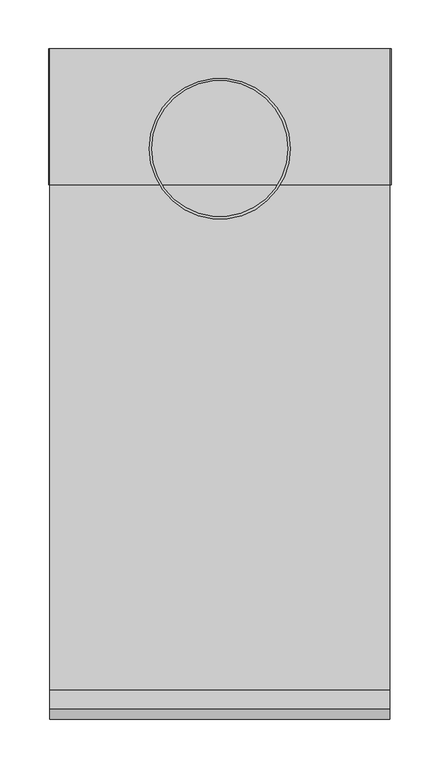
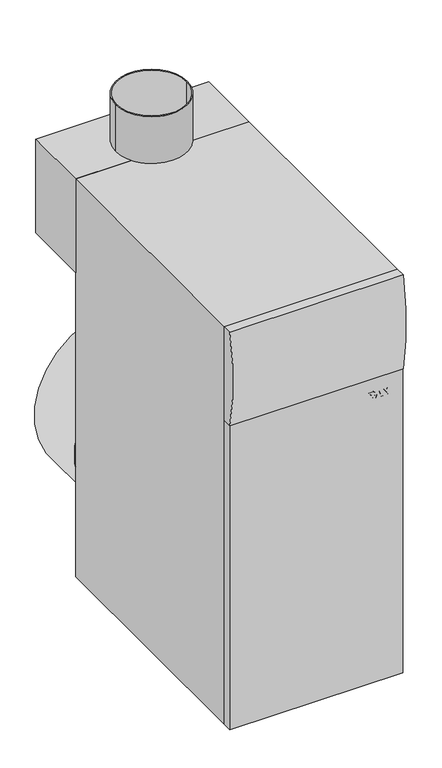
"""IFC4 building model written with IfcOpenShell, lengths in millimetres: proxy geometry, BAXI_ГазовыйКотел_Slim-i : BAXI_Газовый котел_Slim_1.300_i."""

import ifcopenshell
import ifcopenshell.guid

model = None  # the IFC model being written
_history = None  # IfcOwnerHistory: only IFC2X3 demands one
_inside = {}  # id of a spatial element -> (the spatial element, [elements in it])
_under = {}  # id of a project, library or spatial element -> (it, [spatial elements below it])
_declared = {}  # id of a project -> (the project, [libraries it declares])
_typed = {}  # id of a type object -> (the type object, [elements of that type])
_made_of = {}  # id of a material, layer set ... -> (it, [elements and type objects made of it])


def new_model(schema):
    """Start an empty IFC model of exactly this schema.

    Asked for "IFC4X3", IfcOpenShell would pick the latest addendum, in which some entities
    have other attributes; the version numbers below select the first issue.
    IFC2X3 requires an IfcOwnerHistory on every rooted entity: one is made here for all.
    """
    global model, _history
    if schema == "IFC4X3":
        model = ifcopenshell.file(schema_version=(4, 3, 0, 0))
    else:
        model = ifcopenshell.file(schema=schema)
    _inside.clear()
    _under.clear()
    _declared.clear()
    _typed.clear()
    _made_of.clear()
    _history = None
    if model.schema == "IFC2X3":
        org = make("IfcOrganization", Name="unknown")
        user = make(
            "IfcPersonAndOrganization",
            ThePerson=make("IfcPerson", FamilyName="unknown"),
            TheOrganization=org,
        )
        app = make(
            "IfcApplication",
            ApplicationDeveloper=org,
            Version="unknown",
            ApplicationFullName="unknown",
            ApplicationIdentifier="unknown",
        )
        _history = make(
            "IfcOwnerHistory",
            OwningUser=user,
            OwningApplication=app,
            ChangeAction="ADDED",
            CreationDate=0,
        )
    return model


def make(cls, **values):
    """One entity of the class cls with the attributes given. An attribute that is None is left unset."""
    return model.create_entity(
        cls, **{name: value for name, value in values.items() if value is not None}
    )


def rooted(cls, **values):
    """An entity with a GlobalId (a new one), such as an element, a storey or a relation."""
    return make(cls, GlobalId=ifcopenshell.guid.new(), OwnerHistory=_history, **values)


def si_unit(unit_type, name, prefix=None):
    """IfcSIUnit, for example si_unit("LENGTHUNIT", "METRE", prefix="MILLI")."""
    return make("IfcSIUnit", UnitType=unit_type, Prefix=prefix, Name=name)


def assignment(units):
    """IfcUnitAssignment: the units of a project."""
    return None if units is None else make("IfcUnitAssignment", Units=units)


def point(xyz):
    """IfcCartesianPoint."""
    return None if xyz is None else make("IfcCartesianPoint", Coordinates=xyz)


def direction(xyz):
    """IfcDirection."""
    return None if xyz is None else make("IfcDirection", DirectionRatios=xyz)


def frame(location, z_axis=None, x_axis=None):
    """IfcAxis2Placement3D, a coordinate frame: its origin and axes. An axis left out is left unset."""
    return make(
        "IfcAxis2Placement3D",
        Location=point(location),
        Axis=direction(z_axis),
        RefDirection=direction(x_axis),
    )


def frame_2d(location, x_axis=None):
    """IfcAxis2Placement2D, a coordinate frame in the plane: its origin and x axis."""
    return make(
        "IfcAxis2Placement2D", Location=point(location), RefDirection=direction(x_axis)
    )


def origin():
    """The frame at (0, 0, 0) with its axes left unset."""
    return frame((0.0, 0.0, 0.0))


def origin_with_axes():
    """The frame at (0, 0, 0) with the z axis (0, 0, 1) and the x axis (1, 0, 0) written out."""
    return frame((0.0, 0.0, 0.0), z_axis=(0.0, 0.0, 1.0), x_axis=(1.0, 0.0, 0.0))


def place(relative_to, where):
    """IfcLocalPlacement: puts the frame where relative to a parent placement (None: the world)."""
    return make(
        "IfcLocalPlacement", PlacementRelTo=relative_to, RelativePlacement=where
    )


def context(
    kind, dimensions, precision=None, world=None, true_north=None, identifier=None
):
    """IfcGeometricRepresentationContext, for example the 3D "Model" context."""
    return make(
        "IfcGeometricRepresentationContext",
        ContextIdentifier=identifier,
        ContextType=kind,
        CoordinateSpaceDimension=dimensions,
        Precision=precision,
        WorldCoordinateSystem=world,
        TrueNorth=true_north,
    )


def project(units=None, contexts=None):
    """IfcProject with its units and contexts."""
    return rooted(
        "IfcProject",
        Name="project",
        RepresentationContexts=contexts,
        UnitsInContext=assignment(units),
    )


def spatial(cls, under=None, at=None, **own):
    """A site, building, storey or space (cls), placed at a placement, below another one or the project."""
    s = rooted(cls, ObjectPlacement=at, **own)
    if under is not None:
        _under.setdefault(under.id(), (under, []))[1].append(s)
    return s


def polyline(points):
    """IfcPolyline through the points."""
    return make("IfcPolyline", Points=[point(p) for p in points])


def circle_curve(where, radius):
    """IfcCircle in the frame where."""
    return make("IfcCircle", Position=where, Radius=radius)


def trimmed(basis, trim1, trim2, sense, master):
    """IfcTrimmedCurve: the piece of a basis curve between two trims."""
    return make(
        "IfcTrimmedCurve",
        BasisCurve=basis,
        Trim1=trim1,
        Trim2=trim2,
        SenseAgreement=sense,
        MasterRepresentation=master,
    )


def segment(curve, same_sense, transition):
    """IfcCompositeCurveSegment."""
    return make(
        "IfcCompositeCurveSegment",
        Transition=transition,
        SameSense=same_sense,
        ParentCurve=curve,
    )


def composite_curve(segments, self_intersect=None):
    """IfcCompositeCurve: segments joined end to end."""
    return make("IfcCompositeCurve", Segments=segments, SelfIntersect=self_intersect)


def outline(outer, holes=None, kind="AREA"):
    """IfcArbitraryClosedProfileDef: a profile drawn as a closed curve; with holes, ...WithVoids."""
    if holes is None:
        return make("IfcArbitraryClosedProfileDef", ProfileType=kind, OuterCurve=outer)
    return make(
        "IfcArbitraryProfileDefWithVoids",
        ProfileType=kind,
        OuterCurve=outer,
        InnerCurves=holes,
    )


def extrude(swept, where, along, depth):
    """IfcExtrudedAreaSolid: the profile swept, set in the frame where, extruded along a direction by depth."""
    return make(
        "IfcExtrudedAreaSolid",
        SweptArea=swept,
        Position=where,
        ExtrudedDirection=direction(along),
        Depth=depth,
    )


def shape(context_of_items, identifier, shape_type, items):
    """IfcShapeRepresentation: the items that make up one representation, for example the "Body"."""
    return make(
        "IfcShapeRepresentation",
        ContextOfItems=context_of_items,
        RepresentationIdentifier=identifier,
        RepresentationType=shape_type,
        Items=items,
    )


def source(mapping_origin, context_of_items, identifier, shape_type, items):
    """IfcRepresentationMap: a shape defined once, which mapped items show again and again."""
    return make(
        "IfcRepresentationMap",
        MappingOrigin=mapping_origin,
        MappedRepresentation=shape(context_of_items, identifier, shape_type, items),
    )


def transform(
    local_origin,
    x_axis=None,
    y_axis=None,
    z_axis=None,
    scale=None,
    scale2=None,
    scale3=None,
    uniform=True,
):
    """IfcCartesianTransformationOperator3D, or its non-uniform kind. x_axis, y_axis, z_axis: its Axis1, 2, 3."""
    if uniform:
        return make(
            "IfcCartesianTransformationOperator3D",
            Axis1=direction(x_axis),
            Axis2=direction(y_axis),
            LocalOrigin=point(local_origin),
            Scale=scale,
            Axis3=direction(z_axis),
        )
    return make(
        "IfcCartesianTransformationOperator3DnonUniform",
        Axis1=direction(x_axis),
        Axis2=direction(y_axis),
        LocalOrigin=point(local_origin),
        Scale=scale,
        Axis3=direction(z_axis),
        Scale2=scale2,
        Scale3=scale3,
    )


def mapped(mapping_source, mapping_target):
    """IfcMappedItem: shows the shape of a source again, moved by a transform."""
    return make(
        "IfcMappedItem", MappingSource=mapping_source, MappingTarget=mapping_target
    )


def made_of(thing, what):
    """Note that an element or type object is made of a material, layer set ...; save() writes the relation."""
    if what is not None:
        _made_of.setdefault(what.id(), (what, []))[1].append(thing)
    return thing


def element(
    cls,
    number,
    at=None,
    inside=None,
    cuts=None,
    type_object=None,
    material=None,
    context=None,
    identifier="Body",
    shape_type=None,
    held_by="IfcProductDefinitionShape",
    body=None,
    shapes=None,
    **own,
):
    """One element of the class cls, such as IfcWall. Its Tag is "e" and its number.

    at: its placement. inside: the storey or other place that contains it. cuts: it is an
    opening in that element (IfcRelVoidsElement). A single representation is given by context,
    identifier, shape_type and body (its items); several are given by shapes. held_by: the class
    of the entity that holds the representations. save() writes the other relations.
    """
    e = rooted(cls, Tag="e%d" % number, ObjectPlacement=at, **own)
    if body is not None:
        shapes = [shape(context, identifier, shape_type, body)]
    if shapes is not None:
        e.Representation = make(held_by, Representations=shapes)
    if inside is not None:
        _inside.setdefault(inside.id(), (inside, []))[1].append(e)
    if cuts is not None:
        rooted(
            "IfcRelVoidsElement", RelatingBuildingElement=cuts, RelatedOpeningElement=e
        )
    if type_object is not None:
        _typed.setdefault(type_object.id(), (type_object, []))[1].append(e)
    return made_of(e, material)


def aggregate(whole, parts):
    """IfcRelAggregates: a whole, such as a stair, and the parts it consists of."""
    return rooted("IfcRelAggregates", RelatingObject=whole, RelatedObjects=parts)


def save(model, path):
    """Write the relations noted so far, then the file.

    IfcRelAggregates (storeys below a building ...), IfcRelContainedInSpatialStructure (elements
    in a storey), IfcRelDefinesByType, IfcRelAssociatesMaterial and IfcRelDeclares: one each for
    every whole, place, type object, material and project.
    """
    for whole, parts in _under.values():
        aggregate(whole, parts)
    for where, things in _inside.values():
        rooted(
            "IfcRelContainedInSpatialStructure",
            RelatedElements=things,
            RelatingStructure=where,
        )
    for kind, things in _typed.values():
        rooted("IfcRelDefinesByType", RelatedObjects=things, RelatingType=kind)
    for what, things in _made_of.values():
        rooted("IfcRelAssociatesMaterial", RelatedObjects=things, RelatingMaterial=what)
    for by, libraries in _declared.values():
        rooted("IfcRelDeclares", RelatingContext=by, RelatedDefinitions=libraries)
    model.write(path)


def mechanical_equipment_07f1cfd3(model_context):
    return source(origin(), model_context, "Body", "SweptSolid", [
        extrude(outline(composite_curve([segment(trimmed(circle_curve(frame_2d((260.3398592, 0.0)), 177.354555), [point((82.9853042, 0.0))], [point((437.6944142, 0.0))], False, "CARTESIAN"), True, "CONTINUOUS"), segment(trimmed(circle_curve(frame_2d((260.3398592, 0.0)), 177.354555), [point((437.6944142, 0.0))], [point((82.9853042, 0.0))], False, "CARTESIAN"), True, "CONTINUOUS")], self_intersect=False)), frame((0.0, -140.0, 0.0), z_axis=(0.0, 1.0, 0.0), x_axis=(0.0, 0.0, 1.0)), (0.0, 0.0, 1.0), 140.0),
        extrude(outline(polyline([(175.0, 0.0), (175.0, -140.0), (-175.0, -140.0), (-175.0, 0.0), (175.0, 0.0)])), frame((0.0, 0.0, 650.0), z_axis=(0.0, 0.0, 1.0), x_axis=(1.0, 0.0, 0.0)), (0.0, 0.0, 1.0), 200.0),
        extrude(outline(composite_curve([segment(trimmed(circle_curve(frame_2d((0.0, -103.0)), 72.5), [point((-72.5, -103.0))], [point((72.5, -103.0))], False, "CARTESIAN"), True, "CONTINUOUS"), segment(trimmed(circle_curve(frame_2d((0.0, -103.0)), 72.5), [point((72.5, -103.0))], [point((-72.5, -103.0))], False, "CARTESIAN"), True, "CONTINUOUS")], self_intersect=False), holes=[composite_curve([segment(trimmed(circle_curve(frame_2d((0.0, -103.0)), 70.0), [point((-70.0, -103.0))], [point((70.0, -103.0))], True, "CARTESIAN"), True, "CONTINUOUS"), segment(trimmed(circle_curve(frame_2d((0.0, -103.0)), 70.0), [point((70.0, -103.0))], [point((-70.0, -103.0))], True, "CARTESIAN"), True, "CONTINUOUS")], self_intersect=False)]), frame((0.0, 0.0, 850.0), z_axis=(0.0, 0.0, 1.0), x_axis=(1.0, 0.0, 0.0)), (0.0, 0.0, 1.0), 100.0),
        extrude(outline(composite_curve([segment(trimmed(circle_curve(frame_2d((60.0, 90.0)), 16.0), [point((44.0, 90.0))], [point((76.0, 90.0))], False, "CARTESIAN"), True, "CONTINUOUS"), segment(trimmed(circle_curve(frame_2d((60.0, 90.0)), 16.0), [point((76.0, 90.0))], [point((44.0, 90.0))], False, "CARTESIAN"), True, "CONTINUOUS")], self_intersect=False)), frame((0.0, -140.0, 0.0), z_axis=(0.0, 1.0, 0.0), x_axis=(0.0, 0.0, 1.0)), (0.0, 0.0, 1.0), 37.0),
        extrude(outline(composite_curve([segment(polyline([(-660.5, 650.0), (-680.5, 650.0)]), True, "CONTINUOUS"), segment(trimmed(circle_curve(frame_2d((-246.0821371, 750.0)), 445.7789582), [point((-680.5, 650.0))], [point((-680.5, 850.0))], False, "CARTESIAN"), True, "CONTINUOUS"), segment(polyline([(-680.5, 850.0), (-660.5, 850.0), (-660.5, 650.0)]), True, "CONTINUOUS")], self_intersect=False)), frame((-175.0, 0.0, 0.0), z_axis=(1.0, 0.0, 0.0), x_axis=(0.0, 1.0, 0.0)), (0.0, 0.0, 1.0), 350.0),
        extrude(outline(polyline([(175.0, -660.5), (175.0, -680.0), (-175.0, -680.0), (-175.0, -660.5), (175.0, -660.5)])), origin_with_axes(), (0.0, 0.0, 1.0), 650.0),
        extrude(outline(composite_curve([segment(trimmed(circle_curve(frame_2d((435.0, 133.0)), 7.5), [point((427.5, 133.0))], [point((442.5, 133.0))], False, "CARTESIAN"), True, "CONTINUOUS"), segment(trimmed(circle_curve(frame_2d((435.0, 133.0)), 7.5), [point((442.5, 133.0))], [point((427.5, 133.0))], False, "CARTESIAN"), True, "CONTINUOUS")], self_intersect=False)), frame((0.0, -140.0, 0.0), z_axis=(0.0, 1.0, 0.0), x_axis=(0.0, 0.0, 1.0)), (0.0, 0.0, 1.0), 37.0),
        extrude(outline(composite_curve([segment(trimmed(circle_curve(frame_2d((515.0, 133.0)), 10.0), [point((505.0, 133.0))], [point((525.0, 133.0))], False, "CARTESIAN"), True, "CONTINUOUS"), segment(trimmed(circle_curve(frame_2d((515.0, 133.0)), 10.0), [point((525.0, 133.0))], [point((505.0, 133.0))], False, "CARTESIAN"), True, "CONTINUOUS")], self_intersect=False)), frame((0.0, -140.0, 0.0), z_axis=(0.0, 1.0, 0.0), x_axis=(0.0, 0.0, 1.0)), (0.0, 0.0, 1.0), 37.0),
        extrude(outline(polyline([(175.0, -140.0), (175.0, -660.5), (-175.0, -660.5), (-175.0, -140.0), (175.0, -140.0)])), origin_with_axes(), (0.0, 0.0, 1.0), 850.0),
        extrude(outline(polyline([(621.6148871, 105.7694053), (606.3109961, 105.7694053), (606.3109961, 110.999753), (606.4134776, 114.7422224), (607.1365409, 116.8241133), (608.7041269, 118.1563717), (610.7252881, 118.6441073), (613.0216309, 117.9646935), (614.4032322, 116.0213422), (615.7582642, 117.5832349), (617.7395715, 118.1582695), (619.5405874, 117.6762273), (620.8272985, 116.4711218), (621.4630628, 114.8314192), (621.6148871, 112.0511364), (621.6148871, 105.7694053)]), holes=[polyline([(618.9427792, 108.6844322), (618.9427792, 110.6353747), (615.5912574, 113.3758036), (615.5419145, 110.9086584), (615.5419145, 108.6844322), (618.9427792, 108.6844322)]), polyline([(612.8698066, 108.6844322), (612.8698066, 111.3755182), (609.0741987, 114.0514218), (608.9831041, 111.7664658), (608.9831041, 108.6844322), (612.8698066, 108.6844322)])]), frame((0.0, -680.0, 0.0), z_axis=(0.0, 1.0, 0.0), x_axis=(0.0, 0.0, 1.0)), (0.0, 0.0, 1.0), 5.0),
        extrude(outline(polyline([(606.3109961, 133.9479983), (621.6148871, 128.307725), (621.6148871, 125.2029177), (606.3109961, 119.6157829), (606.3109961, 122.7205902), (609.7118608, 123.9048198), (609.7118608, 129.6855306), (606.3109961, 130.8849427), (606.3109961, 133.9479983)]), holes=[polyline([(612.3839688, 128.7518111), (612.3839688, 124.8385394), (617.9711036, 126.7818906), (612.3839688, 128.7518111)])]), frame((0.0, -680.0, 0.0), z_axis=(0.0, 1.0, 0.0), x_axis=(0.0, 0.0, 1.0)), (0.0, 0.0, 1.0), 5.0),
        extrude(outline(polyline([(606.3109961, 134.0694577), (606.3109961, 137.4779136), (611.7159418, 140.9926465), (606.3109961, 144.5073794), (606.3109961, 147.9158353), (614.3349112, 142.6968745), (621.6148871, 147.4299975), (621.6148871, 144.0215416), (616.9576763, 140.9926465), (621.6148871, 137.9637514), (621.6148871, 134.5552956), (614.3349112, 139.2884186), (606.3109961, 134.0694577)])), frame((0.0, -680.0, 0.0), z_axis=(0.0, 1.0, 0.0), x_axis=(0.0, 0.0, 1.0)), (0.0, 0.0, 1.0), 5.0),
        extrude(outline(polyline([(149.4948082, -675.0), (152.4098351, -675.0), (152.4098351, -680.0), (149.4948082, -680.0), (149.4948082, -675.0)])), frame((0.0, 0.0, 606.3109961), z_axis=(0.0, 0.0, 1.0), x_axis=(1.0, 0.0, 0.0)), (0.0, 0.0, 1.0), 15.303891),
    ])


if __name__ == "__main__":
    model = new_model("IFC4")
    model_context = context("Model", 3, world=origin())
    ifc_project = project(units=[si_unit("LENGTHUNIT", "METRE", prefix="MILLI")], contexts=[model_context])
    site = spatial("IfcSite", under=ifc_project)
    building = spatial("IfcBuilding", under=site)
    placement = place(None, origin())
    mechanical_equipment_shape = mechanical_equipment_07f1cfd3(model_context)
    element("IfcBuildingElementProxy", 1, Name="BAXI_ГазовыйКотел_Slim-i : BAXI_Газовый котел_Slim_1.300_i", ObjectType="BAXI_ГазовыйКотел_Slim-i : BAXI_Газовый котел_Slim_1.300_i", at=placement, inside=building, context=model_context, shape_type="MappedRepresentation", body=[
        mapped(mechanical_equipment_shape, transform((0.0, 0.0, 0.0), x_axis=(1.0, 0.0, 0.0), y_axis=(0.0, 1.0, 0.0), z_axis=(0.0, 0.0, 1.0))),
    ])
    save(model, "model.ifc")
